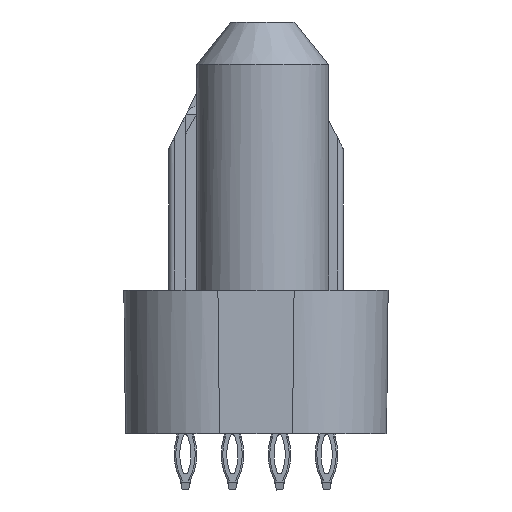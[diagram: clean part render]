
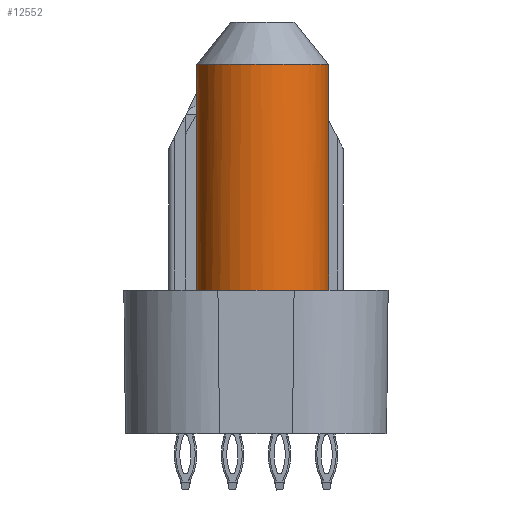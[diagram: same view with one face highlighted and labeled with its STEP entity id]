
A CAD part, left-side view. The second image highlights one B-rep face of the part: STEP entity #12552.
In plain terms, the highlighted cylindrical face has radius 3.5 mm (diameter 7 mm), a partial arc.
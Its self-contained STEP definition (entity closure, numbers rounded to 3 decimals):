
#1650=CYLINDRICAL_SURFACE('',#96759,3.5);
#3930=CIRCLE('',#96756,3.5);
#12046=B_SPLINE_CURVE_WITH_KNOTS('',3,(#148034,#148035,#148036,#148037,
#148038,#148039,#148040,#148041,#148042,#148043),.UNSPECIFIED.,.F.,.F.,
(4,2,2,2,4),(0.,0.25,0.5,0.75,1.),.UNSPECIFIED.);
#12552=ADVANCED_FACE('',(#19990),#1650,.T.);
#19990=FACE_OUTER_BOUND('',#25510,.T.);
#25510=EDGE_LOOP('',(#34351,#34352,#34353,#34354));
#34351=ORIENTED_EDGE('',*,*,#70783,.F.);
#34352=ORIENTED_EDGE('',*,*,#70784,.T.);
#34353=ORIENTED_EDGE('',*,*,#70777,.F.);
#34354=ORIENTED_EDGE('',*,*,#70773,.T.);
#61522=VERTEX_POINT('',#148012);
#61523=VERTEX_POINT('',#148013);
#61526=VERTEX_POINT('',#148021);
#61531=VERTEX_POINT('',#148033);
#70773=EDGE_CURVE('',#61522,#61523,#3930,.T.);
#70777=EDGE_CURVE('',#61522,#61526,#84600,.T.);
#70783=EDGE_CURVE('',#61531,#61523,#84606,.T.);
#70784=EDGE_CURVE('',#61531,#61526,#12046,.T.);
#84600=LINE('',#148020,#91294);
#84606=LINE('',#148032,#91300);
#91294=VECTOR('',#111855,1.);
#91300=VECTOR('',#111863,1.);
#96756=AXIS2_PLACEMENT_3D('',#148011,#111848,#111849);
#96759=AXIS2_PLACEMENT_3D('',#148044,#111864,#111865);
#111848=DIRECTION('',(0.,0.,1.));
#111849=DIRECTION('',(0.,-1.,0.));
#111855=DIRECTION('',(0.,0.,1.));
#111863=DIRECTION('',(0.,0.,-1.));
#111864=DIRECTION('',(0.,0.,1.));
#111865=DIRECTION('',(1.,0.,0.));
#148011=CARTESIAN_POINT('',(-39.13,-0.355,7.63));
#148012=CARTESIAN_POINT('',(-39.13,3.145,7.63));
#148013=CARTESIAN_POINT('',(-39.13,-3.855,7.63));
#148020=CARTESIAN_POINT('',(-39.13,3.145,8.63));
#148021=CARTESIAN_POINT('',(-39.13,3.145,19.63));
#148032=CARTESIAN_POINT('',(-39.13,-3.855,19.38));
#148033=CARTESIAN_POINT('',(-39.13,-3.855,19.63));
#148034=CARTESIAN_POINT('',(-39.13,-3.855,19.63));
#148035=CARTESIAN_POINT('',(-40.046,-3.855,19.63));
#148036=CARTESIAN_POINT('',(-40.957,-3.478,19.63));
#148037=CARTESIAN_POINT('',(-42.253,-2.182,19.63));
#148038=CARTESIAN_POINT('',(-42.63,-1.271,19.63));
#148039=CARTESIAN_POINT('',(-42.63,0.561,19.63));
#148040=CARTESIAN_POINT('',(-42.253,1.472,19.63));
#148041=CARTESIAN_POINT('',(-40.957,2.768,19.63));
#148042=CARTESIAN_POINT('',(-40.046,3.145,19.63));
#148043=CARTESIAN_POINT('',(-39.13,3.145,19.63));
#148044=CARTESIAN_POINT('',(-39.13,-0.355,7.63));
